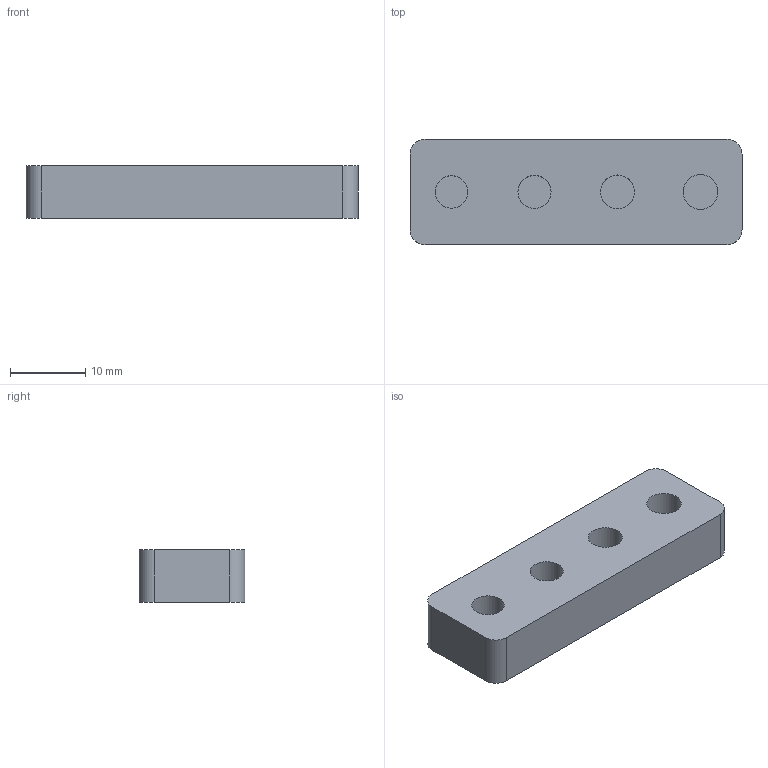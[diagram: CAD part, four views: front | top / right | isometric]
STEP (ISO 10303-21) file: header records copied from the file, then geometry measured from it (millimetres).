
FILE_DESCRIPTION(('Open CASCADE Model'),'2;1');
FILE_NAME('Open CASCADE Shape Model','2026-10-01T12:35:25',('Author'),( 'Open CASCADE'),'Open CASCADE STEP processor 7.8','Open CASCADE 7.8' ,'Unknown');
FILE_SCHEMA(('AUTOMOTIVE_DESIGN { 1 0 10303 214 1 1 1 1 }'));
Length unit declared in the file: millimetre
Products named in the file (1): Open CASCADE STEP translator 7.8 95
Bounding box: 44 x 14 x 7 mm (x, y, z)
Volume: 3976.7 mm3; surface area: 2292.7 mm2
Topology: 1 solids, 1 shells, 18 faces, 36 edges, 24 vertices
Faces by surface type: plane 10, cylinder 8
Full cylindrical faces by diameter (mm): 4.3 x1, 4.4 x1, 4.5 x1, 4.6 x1
Entity records: 966 total; most frequent: CARTESIAN_POINT 175, DIRECTION 158, LINE 76, VECTOR 76, ORIENTED_EDGE 72, PCURVE 72, DEFINITIONAL_REPRESENTATION 72, EDGE_CURVE 36
